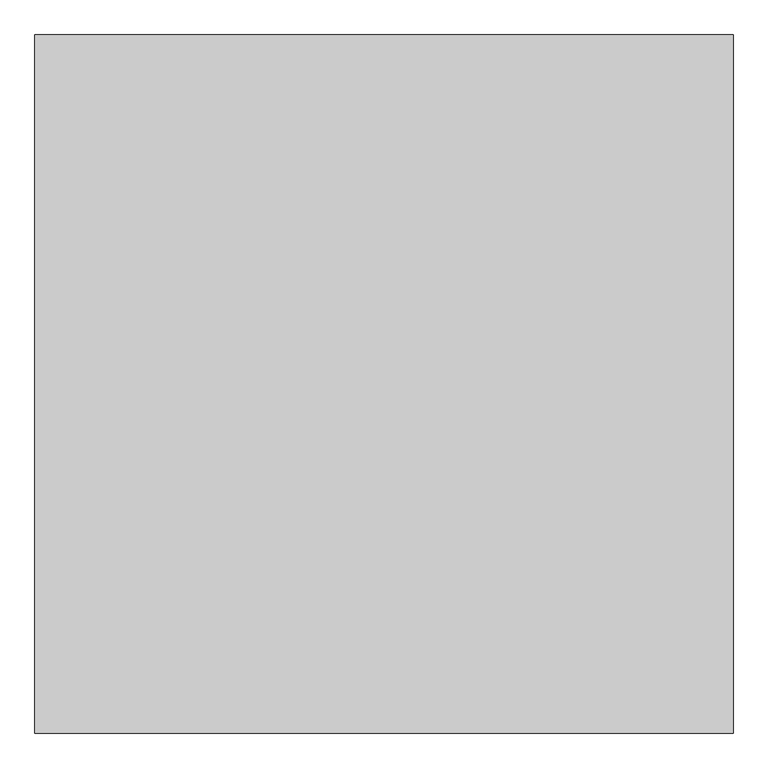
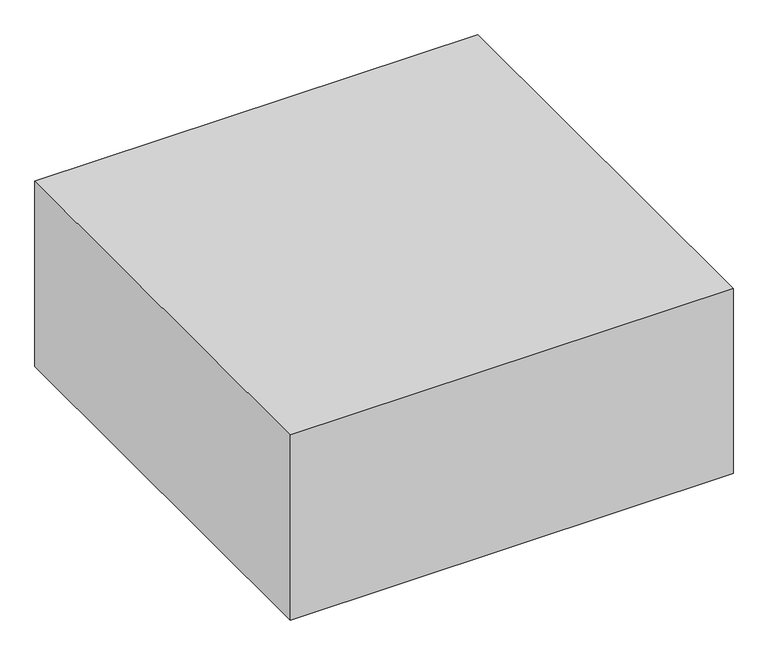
"""IFC4 building model written with IfcOpenShell, lengths in millimetres: proxy geometry."""

from ifc_helpers import new_model, si_unit, frame, origin, place, context, project, spatial, polyline, outline, extrude, source, transform, mapped, element, save


def generic_models_ef3f6351(model_context):
    return source(origin(), model_context, "Body", "SweptSolid", [
        extrude(outline(polyline([(-36008.9987968, -18720.7903364), (-36008.9987968, -17680.7903364), (-34968.9987968, -17680.7903364), (-34968.9987968, -18720.7903364), (-36008.9987968, -18720.7903364)])), frame((0.0, 0.0, -1300.0), z_axis=(0.0, 0.0, 1.0), x_axis=(1.0, 0.0, 0.0)), (0.0, 0.0, 1.0), 460.0),
    ])


if __name__ == "__main__":
    model = new_model("IFC4")
    model_context = context("Model", 3, world=origin())
    ifc_project = project(units=[si_unit("LENGTHUNIT", "METRE", prefix="MILLI")], contexts=[model_context])
    site = spatial("IfcSite", under=ifc_project)
    building = spatial("IfcBuilding", under=site)
    placement = place(None, origin())
    generic_models_shape = generic_models_ef3f6351(model_context)
    element("IfcBuildingElementProxy", 1, Name="Generic Models", at=placement, inside=building, context=model_context, shape_type="MappedRepresentation", body=[
        mapped(generic_models_shape, transform((0.0, 0.0, 0.0), x_axis=(1.0, 0.0, 0.0), y_axis=(0.0, 1.0, 0.0), z_axis=(0.0, 0.0, 1.0))),
    ])
    save(model, "model.ifc")
